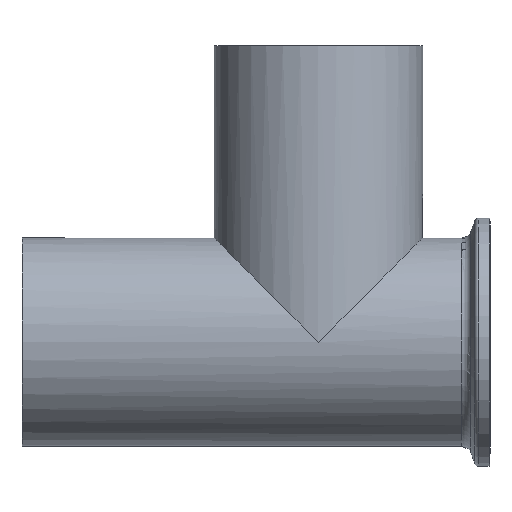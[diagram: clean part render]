
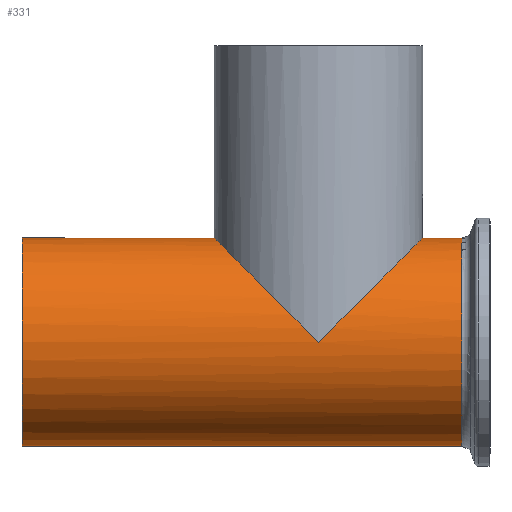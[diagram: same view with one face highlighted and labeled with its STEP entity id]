
A CAD part, left-side view. The second image highlights one B-rep face of the part: STEP entity #331.
In plain terms, the highlighted cylindrical face has radius 21.2 mm (diameter 42.4 mm), a full revolution.
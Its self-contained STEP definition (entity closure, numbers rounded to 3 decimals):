
#31=ELLIPSE('',#355,29.981,21.2);
#32=ELLIPSE('',#356,29.981,21.2);
#35=ORIENTED_EDGE('',*,*,#75,.T.);
#36=ORIENTED_EDGE('',*,*,#76,.T.);
#37=ORIENTED_EDGE('',*,*,#77,.T.);
#38=ORIENTED_EDGE('',*,*,#78,.F.);
#75=EDGE_CURVE('',#95,#95,#115,.F.);
#76=EDGE_CURVE('',#96,#97,#31,.T.);
#77=EDGE_CURVE('',#97,#96,#32,.F.);
#78=EDGE_CURVE('',#98,#98,#116,.T.);
#95=VERTEX_POINT('',#469);
#96=VERTEX_POINT('',#471);
#97=VERTEX_POINT('',#472);
#98=VERTEX_POINT('',#475);
#115=CIRCLE('',#354,21.2);
#116=CIRCLE('',#357,21.2);
#131=EDGE_LOOP('',(#35));
#132=EDGE_LOOP('',(#36,#37));
#133=EDGE_LOOP('',(#38));
#167=FACE_BOUND('',#131,.T.);
#168=FACE_BOUND('',#132,.T.);
#169=FACE_BOUND('',#133,.T.);
#203=CYLINDRICAL_SURFACE('',#353,21.2);
#331=ADVANCED_FACE('',(#167,#168,#169),#203,.T.);
#353=AXIS2_PLACEMENT_3D('',#467,#392,#393);
#354=AXIS2_PLACEMENT_3D('',#468,#394,#395);
#355=AXIS2_PLACEMENT_3D('',#470,#396,#397);
#356=AXIS2_PLACEMENT_3D('',#473,#398,#399);
#357=AXIS2_PLACEMENT_3D('',#474,#400,#401);
#392=DIRECTION('',(0.,-1.,0.));
#393=DIRECTION('',(0.,0.,-1.));
#394=DIRECTION('',(0.,-1.,0.));
#395=DIRECTION('',(0.,0.,-1.));
#396=DIRECTION('',(0.,-0.707,-0.707));
#397=DIRECTION('',(0.,-0.707,0.707));
#398=DIRECTION('',(0.,-0.707,0.707));
#399=DIRECTION('',(0.,-0.707,-0.707));
#400=DIRECTION('',(0.,1.,0.));
#401=DIRECTION('',(1.,0.,0.));
#467=CARTESIAN_POINT('',(0.,95.2,0.));
#468=CARTESIAN_POINT('',(0.,5.774,0.));
#469=CARTESIAN_POINT('',(0.,5.774,-21.2));
#470=CARTESIAN_POINT('',(0.,34.9,0.));
#471=CARTESIAN_POINT('',(21.2,34.9,0.));
#472=CARTESIAN_POINT('',(-21.2,34.9,0.));
#473=CARTESIAN_POINT('',(0.,34.9,0.));
#474=CARTESIAN_POINT('',(0.,95.2,0.));
#475=CARTESIAN_POINT('',(21.2,95.2,0.));
